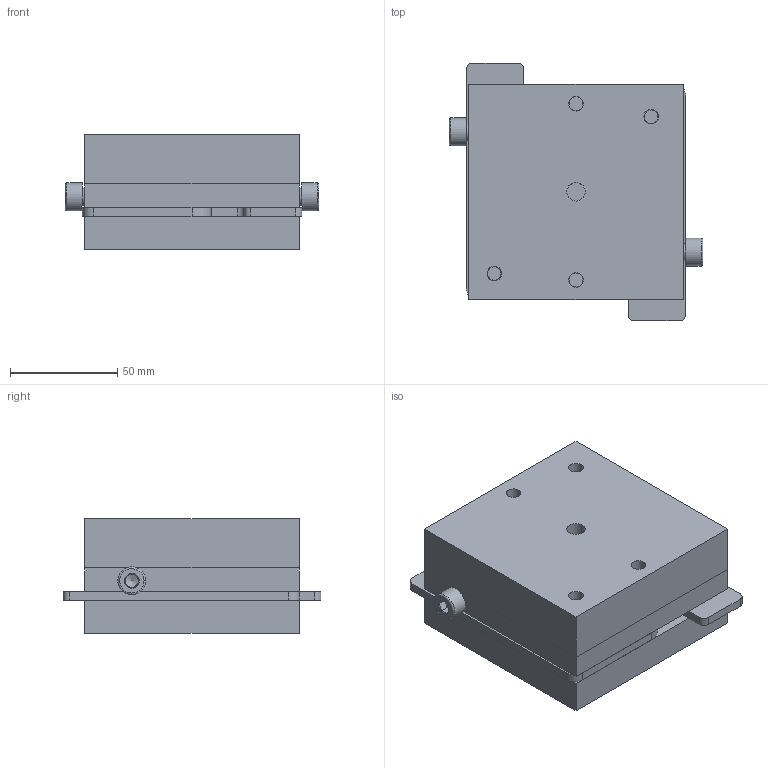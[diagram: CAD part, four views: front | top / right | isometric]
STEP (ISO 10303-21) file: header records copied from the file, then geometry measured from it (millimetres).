
FILE_DESCRIPTION(/* description */ (''),/* implementation_level */ '2;1');
FILE_NAME(/* name */ 'MOULE PETITE ROULETTE.step',/* time_stamp */ '2023-08-10T15:15:39+02:00',/* author */ (''),/* organization */ (''),/* preprocessor_version */ 'ST-DEVELOPER v20',/* originating_system */ 'Autodesk Translation Framework v12.9.0.99',/* authorisation */ '');
FILE_SCHEMA (('AUTOMOTIVE_DESIGN { 1 0 10303 214 3 1 1 }'));
Length unit declared in the file: millimetre
Products named in the file (15): moule petite roulette; roulette 2 v1; insert; moule; partie fixe; E_1301_8x16_1 v1; partie mobile; noyaux; E_1242_10x25_1 v1(Symétrie miroir); E_1242_10x25_1 v1; tiroirs rotatifs; devet; cylinder head hex screw (1); tiroir rotatif sym; cylinder head hex screw
Assembly tree (17 placements, depth 5):
  moule petite roulette
    roulette 2 v1
    insert
    moule
      partie fixe
        E_1301_8x16_1 v1  x2
      partie mobile
        noyaux
          E_1242_10x25_1 v1(Symétrie miroir)
          E_1242_10x25_1 v1
        tiroirs rotatifs
        devet
          cylinder head hex screw (1)  x2
        tiroir rotatif sym
      cylinder head hex screw  x2
Bounding box: 118 x 120 x 53.5 mm (x, y, z)
Volume: 527609.9 mm3; surface area: 123346.6 mm2
Topology: 15 solids, 15 shells, 524 faces, 1200 edges, 738 vertices
Faces by surface type: cone 173, cylinder 164, plane 162, torus 21, sphere 4
Full cylindrical faces by diameter (mm): 5 x3, 6 x2, 6.75 x2, 6.779 x6, 7 x2, 7.866 x4, 8 x8, 8.526 x1, 9 x6, 9.6 x2, 10 x16, 13 x4, 15 x2, 16 x2, 17 x2, 51 x1, 51.2 x1
Entity records: 13846 total; most frequent: DIRECTION 2615, CARTESIAN_POINT 2281, ORIENTED_EDGE 2138, AXIS2_PLACEMENT_3D 1073, EDGE_CURVE 1069, VERTEX_POINT 667, EDGE_LOOP 578, CIRCLE 576
